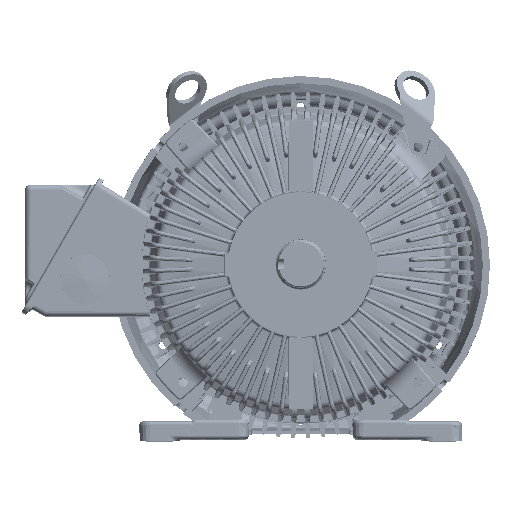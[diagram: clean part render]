
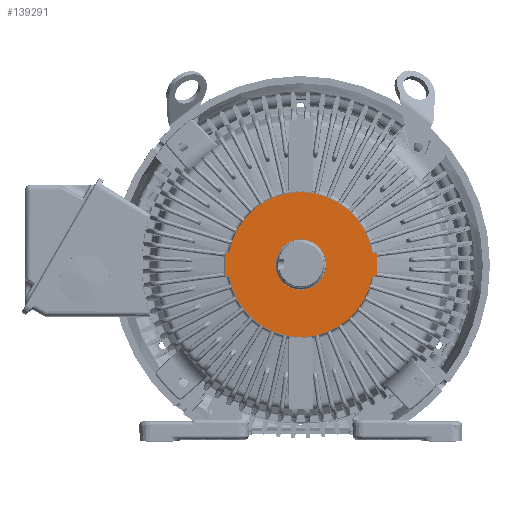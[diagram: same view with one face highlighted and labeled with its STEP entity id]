
A CAD part, top view. The second image highlights one B-rep face of the part: STEP entity #139291.
In plain terms, the highlighted planar face has unit normal (0, 0, 1) as drawn and (0, 0, -1) by its records, which use the part's own axes.
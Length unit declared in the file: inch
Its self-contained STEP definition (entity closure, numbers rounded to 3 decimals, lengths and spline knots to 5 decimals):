
#104118=CARTESIAN_POINT('',(0.,0.,-1.843));
#104119=DIRECTION('',(0.,0.,1.));
#104120=DIRECTION('',(-0.984,-0.18,0.));
#104121=AXIS2_PLACEMENT_3D('',#104118,#104119,#104120);
#104123=DIRECTION('',(0.,1.,0.));
#104124=VECTOR('',#104123,0.69026);
#104125=CARTESIAN_POINT('',(2.688,-0.34463,-1.843));
#104126=LINE('',#104125,#104124);
#104127=CARTESIAN_POINT('',(0.,0.,-1.843));
#104128=DIRECTION('',(0.,0.,1.));
#104129=DIRECTION('',(0.984,0.18,0.));
#104130=AXIS2_PLACEMENT_3D('',#104127,#104128,#104129);
#104132=DIRECTION('',(0.,-1.,0.));
#104133=VECTOR('',#104132,0.69026);
#104134=CARTESIAN_POINT('',(-2.688,0.34463,-1.843));
#104135=LINE('',#104134,#104133);
#104136=CARTESIAN_POINT('',(0.,0.,-1.843));
#104137=DIRECTION('',(0.,0.,1.));
#104138=DIRECTION('',(0.,1.,0.));
#104139=AXIS2_PLACEMENT_3D('',#104136,#104137,#104138);
#104141=CARTESIAN_POINT('',(0.,0.,-1.843));
#104142=DIRECTION('',(0.,0.,1.));
#104143=DIRECTION('',(0.,-1.,0.));
#104144=AXIS2_PLACEMENT_3D('',#104141,#104142,#104143);
#104155=CARTESIAN_POINT('',(2.58277,-0.47178,-1.843));
#104156=DIRECTION('',(0.,0.,-1.));
#104157=DIRECTION('',(-0.984,0.18,0.));
#104158=AXIS2_PLACEMENT_3D('',#104155,#104156,#104157);
#129046=DIRECTION('',(1.,-0.026,0.));
#129047=VECTOR('',#129046,0.04573);
#129048=CARTESIAN_POINT('',(-2.62665,-0.40861,-1.843));
#129049=LINE('',#129048,#129047);
#129061=CARTESIAN_POINT('',(-2.58258,-0.47278,-1.843));
#129062=DIRECTION('',(0.,0.,-1.));
#129063=DIRECTION('',(0.026,1.,0.));
#129064=AXIS2_PLACEMENT_3D('',#129061,#129062,#129063);
#129084=CARTESIAN_POINT('',(-2.625,-0.34563,-1.843));
#129085=DIRECTION('',(0.,0.,1.));
#129086=DIRECTION('',(-1.,0.,0.));
#129087=AXIS2_PLACEMENT_3D('',#129084,#129085,#129086);
#129151=CARTESIAN_POINT('',(-2.625,0.34463,-1.843));
#129152=DIRECTION('',(0.,0.,1.));
#129153=DIRECTION('',(-0.026,1.,0.));
#129154=AXIS2_PLACEMENT_3D('',#129151,#129152,#129153);
#129181=DIRECTION('',(-1.,-0.026,0.));
#129182=VECTOR('',#129181,0.04555);
#129183=CARTESIAN_POINT('',(-2.58112,0.4088,-1.843));
#129184=LINE('',#129183,#129182);
#129204=CARTESIAN_POINT('',(-2.58277,0.47178,-1.843));
#129205=DIRECTION('',(0.,0.,-1.));
#129206=DIRECTION('',(0.984,-0.18,0.));
#129207=AXIS2_PLACEMENT_3D('',#129204,#129205,#129206);
#133117=DIRECTION('',(-1.,0.026,0.));
#133118=VECTOR('',#133117,0.04573);
#133119=CARTESIAN_POINT('',(2.62665,0.40861,-1.843));
#133120=LINE('',#133119,#133118);
#133132=CARTESIAN_POINT('',(2.58258,0.47278,-1.843));
#133133=DIRECTION('',(0.,0.,-1.));
#133134=DIRECTION('',(-0.026,-1.,0.));
#133135=AXIS2_PLACEMENT_3D('',#133132,#133133,#133134);
#133155=CARTESIAN_POINT('',(2.625,0.34563,-1.843));
#133156=DIRECTION('',(0.,0.,1.));
#133157=DIRECTION('',(1.,0.,0.));
#133158=AXIS2_PLACEMENT_3D('',#133155,#133156,#133157);
#133222=CARTESIAN_POINT('',(2.625,-0.34463,-1.843));
#133223=DIRECTION('',(0.,0.,1.));
#133224=DIRECTION('',(0.026,-1.,0.));
#133225=AXIS2_PLACEMENT_3D('',#133222,#133223,#133224);
#133253=DIRECTION('',(1.,0.026,0.));
#133254=VECTOR('',#133253,0.04555);
#133255=CARTESIAN_POINT('',(2.58112,-0.4088,-1.843));
#133256=LINE('',#133255,#133254);
#135351=CARTESIAN_POINT('',(-2.688,0.34463,-1.843));
#135352=CARTESIAN_POINT('',(-2.688,-0.34563,-1.843));
#135353=VERTEX_POINT('',#135351);
#135354=VERTEX_POINT('',#135352);
#135355=CARTESIAN_POINT('',(2.688,-0.34463,-1.843));
#135356=CARTESIAN_POINT('',(2.688,0.34563,-1.843));
#135357=VERTEX_POINT('',#135355);
#135358=VERTEX_POINT('',#135356);
#135665=CARTESIAN_POINT('',(-2.62665,-0.40861,-1.843));
#135666=VERTEX_POINT('',#135665);
#135667=CARTESIAN_POINT('',(-2.58093,-0.4098,-1.843));
#135668=VERTEX_POINT('',#135667);
#135669=CARTESIAN_POINT('',(-2.58112,0.4088,-1.843));
#135670=CARTESIAN_POINT('',(-2.62665,0.40761,-1.843));
#135671=VERTEX_POINT('',#135669);
#135672=VERTEX_POINT('',#135670);
#135674=CARTESIAN_POINT('',(-2.52061,-0.46144,
-1.843));
#135676=VERTEX_POINT('',#135674);
#135678=CARTESIAN_POINT('',(-2.52079,0.46046,
-1.843));
#135680=VERTEX_POINT('',#135678);
#135682=CARTESIAN_POINT('',(2.62665,0.40861,-1.843));
#135683=VERTEX_POINT('',#135682);
#135684=CARTESIAN_POINT('',(2.58093,0.4098,-1.843));
#135685=VERTEX_POINT('',#135684);
#135686=CARTESIAN_POINT('',(2.58112,-0.4088,-1.843));
#135687=CARTESIAN_POINT('',(2.62665,-0.40761,-1.843));
#135688=VERTEX_POINT('',#135686);
#135689=VERTEX_POINT('',#135687);
#135691=CARTESIAN_POINT('',(2.52061,0.46144,
-1.843));
#135693=VERTEX_POINT('',#135691);
#135695=CARTESIAN_POINT('',(2.52079,-0.46046,
-1.843));
#135697=VERTEX_POINT('',#135695);
#138925=CARTESIAN_POINT('',(0.,0.8915,-1.843));
#138926=CARTESIAN_POINT('',(0.,-0.8915,-1.843));
#138927=VERTEX_POINT('',#138925);
#138928=VERTEX_POINT('',#138926);
#139248=CARTESIAN_POINT('',(0.,0.,-1.843));
#139249=DIRECTION('',(0.,0.,-1.));
#139250=DIRECTION('',(0.,-1.,0.));
#139251=AXIS2_PLACEMENT_3D('',#139248,#139249,#139250);
#139252=PLANE('',#139251);
#139253=ORIENTED_EDGE('',*,*,#139111,.T.);
#139255=ORIENTED_EDGE('',*,*,#139254,.T.);
#139257=ORIENTED_EDGE('',*,*,#139256,.T.);
#139259=ORIENTED_EDGE('',*,*,#139258,.T.);
#139261=ORIENTED_EDGE('',*,*,#139260,.T.);
#139263=ORIENTED_EDGE('',*,*,#139262,.T.);
#139265=ORIENTED_EDGE('',*,*,#139264,.T.);
#139267=ORIENTED_EDGE('',*,*,#139266,.T.);
#139268=ORIENTED_EDGE('',*,*,#138969,.T.);
#139270=ORIENTED_EDGE('',*,*,#139269,.T.);
#139272=ORIENTED_EDGE('',*,*,#139271,.T.);
#139274=ORIENTED_EDGE('',*,*,#139273,.T.);
#139276=ORIENTED_EDGE('',*,*,#139275,.T.);
#139278=ORIENTED_EDGE('',*,*,#139277,.T.);
#139280=ORIENTED_EDGE('',*,*,#139279,.T.);
#139282=ORIENTED_EDGE('',*,*,#139281,.T.);
#139283=EDGE_LOOP('',(#139253,#139255,#139257,#139259,#139261,#139263,#139265,
#139267,#139268,#139270,#139272,#139274,#139276,#139278,#139280,#139282));
#139284=FACE_OUTER_BOUND('',#139283,.F.);
#139286=ORIENTED_EDGE('',*,*,#139285,.F.);
#139288=ORIENTED_EDGE('',*,*,#139287,.F.);
#139289=EDGE_LOOP('',(#139286,#139288));
#139290=FACE_BOUND('',#139289,.F.);
#139291=ADVANCED_FACE('',(#139284,#139290),#139252,.T.);
#104122=CIRCLE('',#104121,2.5625);
#104131=CIRCLE('',#104130,2.5625);
#104140=CIRCLE('',#104139,0.8915);
#104145=CIRCLE('',#104144,0.8915);
#104159=CIRCLE('',#104158,0.063);
#129065=CIRCLE('',#129064,0.063);
#129088=CIRCLE('',#129087,0.063);
#129155=CIRCLE('',#129154,0.063);
#129208=CIRCLE('',#129207,0.063);
#133136=CIRCLE('',#133135,0.063);
#133159=CIRCLE('',#133158,0.063);
#133226=CIRCLE('',#133225,0.063);
#138969=EDGE_CURVE('',#135693,#135680,#104131,.T.);
#139111=EDGE_CURVE('',#135676,#135697,#104122,.T.);
#139254=EDGE_CURVE('',#135697,#135688,#104159,.T.);
#139256=EDGE_CURVE('',#135688,#135689,#133256,.T.);
#139258=EDGE_CURVE('',#135689,#135357,#133226,.T.);
#139260=EDGE_CURVE('',#135357,#135358,#104126,.T.);
#139262=EDGE_CURVE('',#135358,#135683,#133159,.T.);
#139264=EDGE_CURVE('',#135683,#135685,#133120,.T.);
#139266=EDGE_CURVE('',#135685,#135693,#133136,.T.);
#139269=EDGE_CURVE('',#135680,#135671,#129208,.T.);
#139271=EDGE_CURVE('',#135671,#135672,#129184,.T.);
#139273=EDGE_CURVE('',#135672,#135353,#129155,.T.);
#139275=EDGE_CURVE('',#135353,#135354,#104135,.T.);
#139277=EDGE_CURVE('',#135354,#135666,#129088,.T.);
#139279=EDGE_CURVE('',#135666,#135668,#129049,.T.);
#139281=EDGE_CURVE('',#135668,#135676,#129065,.T.);
#139285=EDGE_CURVE('',#138927,#138928,#104140,.T.);
#139287=EDGE_CURVE('',#138928,#138927,#104145,.T.);
